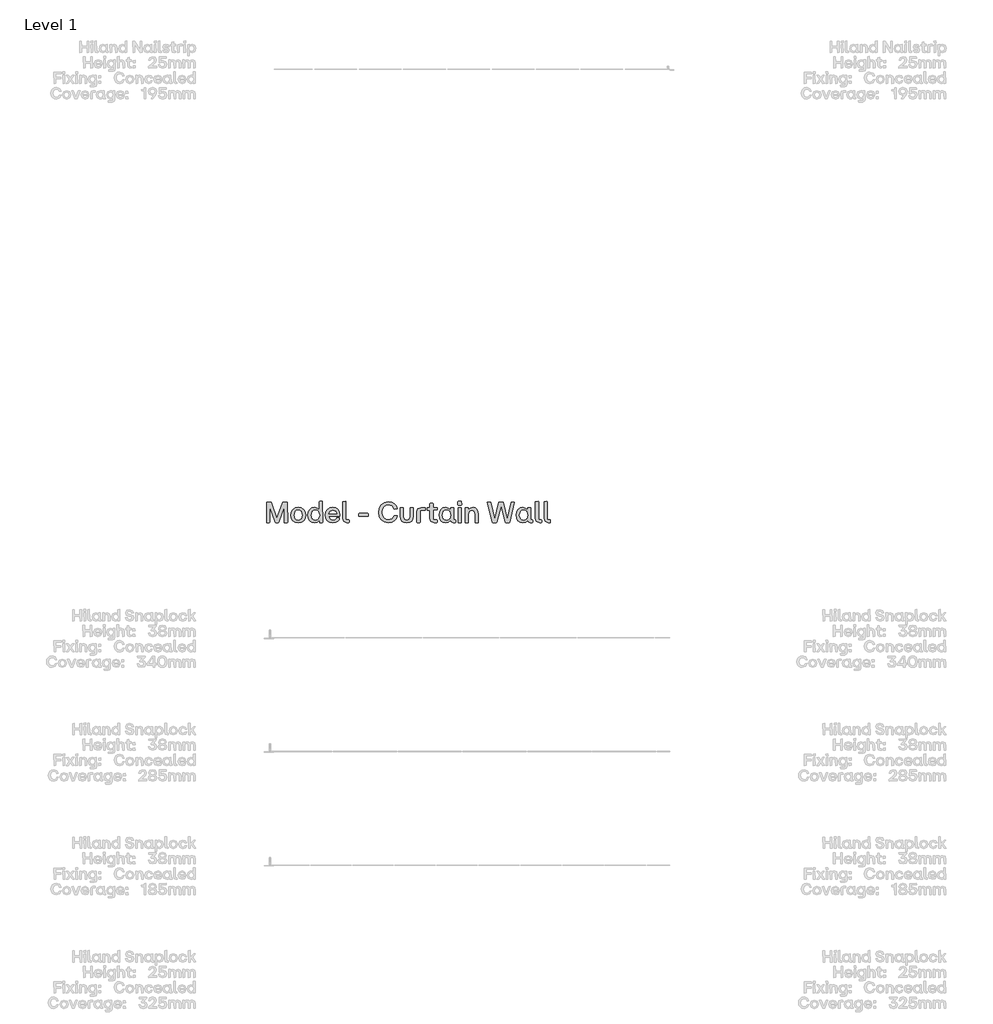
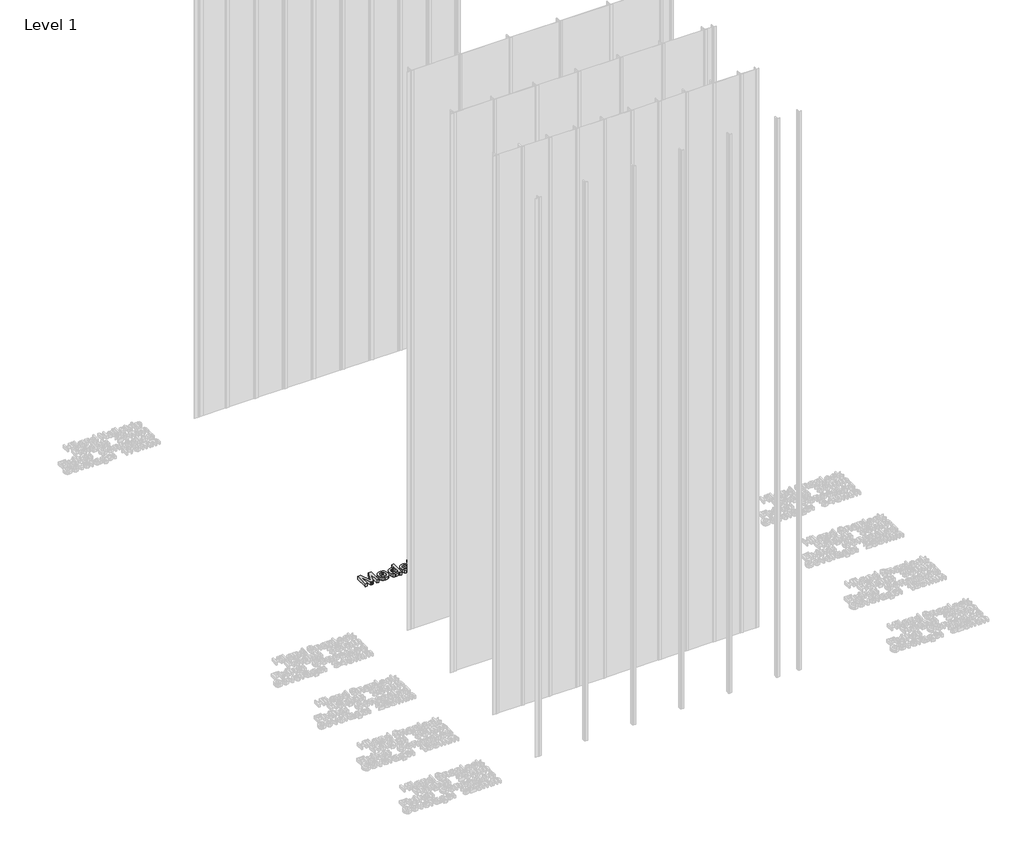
# One storey, part 19 of 64: 1 proxy.
"""IFC4 building model written with IfcOpenShell, lengths in millimetres."""

from ifc_helpers import new_model, si_unit, origin, origin_with_axes, place, context, project, spatial, polyline, outline, extrude, element, save

model = new_model("IFC4")

# Units and contexts
model_context = context("Model", 3, world=origin())
ifc_project = project(units=[si_unit("LENGTHUNIT", "METRE", prefix="MILLI")], contexts=[model_context])

# Site, building, storey
site = spatial("IfcSite", under=ifc_project)
building = spatial("IfcBuilding", under=site)
storey = spatial("IfcBuildingStorey", under=building, Name="Level 1", Elevation=0.0)

# Proxy
placement = place(None, origin())
element("IfcBuildingElementProxy", 1, Name="90mm", ObjectType="90mm", at=placement, inside=storey, context=model_context, shape_type="SweptSolid", body=[
    extrude(outline(polyline([(10.2926176, -6500.0), (8.9872124, -6498.7448027), (8.9872124, -6411.3077612), (28.5682898, -6410.002356), (30.0745265, -6411.0567217), (54.8521205, -6480.4691305), (79.8305461, -6411.0567217), (81.3367829, -6410.002356), (99.8634945, -6410.002356), (101.1688997, -6498.7448027), (99.8634945, -6500.0), (87.9391205, -6500.0), (86.6086114, -6498.7448027), (86.6086114, -6430.211032), (62.2075765, -6498.9958422), (60.7013398, -6500.0), (49.2037328, -6500.0), (47.6974961, -6498.9958422), (23.7985402, -6430.211032), (23.2964613, -6498.7448027), (21.9659522, -6500.0), (10.2926176, -6500.0)])), origin_with_axes(), (0.0, 0.0, 1.0), 20.0),
    extrude(outline(polyline([(148.1383814, -6500.7531184), (134.9117402, -6498.4466934), (124.452809, -6491.5274185), (117.6465018, -6480.8739317), (115.3777327, -6467.3648711), (117.6527778, -6453.7679467), (124.4779129, -6443.0014921), (134.9431201, -6435.9880774), (148.1383814, -6433.6502725), (161.4905423, -6435.9880774), (172.0247853, -6443.0014921), (178.8687484, -6453.7679467), (181.1500695, -6467.3648711), (178.8687484, -6480.8739317), (172.0247853, -6491.5274185), (161.4905423, -6498.4466934), (148.1383814, -6500.7531184)]), holes=[polyline([(129.8878131, -6467.3648711), (134.7454265, -6483.3937402), (140.522472, -6487.7524127), (148.1383814, -6489.2053035), (155.8358786, -6487.7461367), (161.7070638, -6483.3686362), (166.665093, -6467.3648711), (161.7321678, -6451.1728263), (155.8672585, -6446.748256), (148.1383814, -6445.2733992), (140.522472, -6446.748256), (134.7454265, -6451.1728263), (129.8878131, -6467.3648711)])]), origin_with_axes(), (0.0, 0.0, 1.0), 20.0),
    extrude(outline(polyline([(219.9607689, -6500.7531184), (208.011291, -6498.4843493), (198.7730391, -6491.6780421), (192.86106, -6481.0622112), (190.8904003, -6467.3648711), (192.86106, -6453.5325972), (198.7730391, -6442.8132125), (208.011291, -6435.9410075), (219.9607689, -6433.6502725), (231.872591, -6436.5372262), (240.8472515, -6444.444969), (241.4246422, -6408.7471587), (242.6798395, -6407.4166496), (254.353174, -6407.4166496), (255.6585792, -6498.7448027), (254.353174, -6500.0), (243.3074381, -6500.0), (242.0522408, -6498.7448027), (242.0522408, -6490.0839416), (232.4123258, -6497.8661646), (219.9607689, -6500.7531184)]), holes=[polyline([(205.4004807, -6467.3648711), (210.3585099, -6483.3686362), (216.2234191, -6487.7461367), (223.9020884, -6489.2053035), (231.4583759, -6487.7524127), (237.1569715, -6483.3937402), (241.9267211, -6467.3648711), (237.1193156, -6451.1728263), (231.411306, -6446.748256), (223.9020884, -6445.2733992), (216.2234191, -6446.748256), (210.3585099, -6451.1728263), (205.4004807, -6467.3648711)])]), origin_with_axes(), (0.0, 0.0, 1.0), 20.0),
    extrude(outline(polyline([(301.1469281, -6500.7531184), (287.5594177, -6498.4843493), (277.0220367, -6491.6780421), (270.2627994, -6481.0622112), (268.0097203, -6467.3648711), (270.2533854, -6453.5012173), (276.9843807, -6442.7881086), (287.5123478, -6435.9347315), (301.1469281, -6433.6502725), (313.6769348, -6435.9033516), (323.250952, -6442.6625889), (329.3229688, -6453.3129377), (331.3469743, -6467.2393514), (331.3469743, -6470.6785919), (330.0917771, -6472.009101), (282.6453204, -6472.009101), (288.1681884, -6484.6865934), (301.1469281, -6489.2053035), (311.5650654, -6486.9082925), (316.9624137, -6480.4691305), (318.3431307, -6479.4147648), (329.7152179, -6479.4147648), (327.6817983, -6488.7314665), (321.3305002, -6495.1925945), (312.3432877, -6499.3629874), (301.1469281, -6500.7531184)]), holes=[polyline([(282.7708401, -6461.5909637), (317.3389729, -6461.5909637), (312.5817752, -6449.6289337), (301.1469281, -6445.2733992), (288.3815719, -6449.4155502), (282.7708401, -6461.5909637)])]), origin_with_axes(), (0.0, 0.0, 1.0), 20.0),
    extrude(outline(polyline([(362.7771139, -6500.0), (348.9197361, -6495.2302504), (344.1499865, -6481.3477686), (344.1499865, -6408.7471587), (357.1287262, -6407.4166496), (358.3839235, -6408.7471587), (358.3839235, -6488.7032246), (370.3836093, -6488.7032246), (371.6388066, -6489.9584219), (371.6388066, -6498.7448027), (370.3836093, -6500.0), (362.7771139, -6500.0)])), origin_with_axes(), (0.0, 0.0, 1.0), 20.0),
    extrude(outline(polyline([(416.4242451, -6472.887739), (415.1690478, -6471.5572299), (415.1690478, -6461.5909637), (416.4242451, -6460.2604546), (455.034113, -6460.2604546), (456.2893102, -6461.5909637), (456.2893102, -6471.5572299), (455.034113, -6472.887739), (416.4242451, -6472.887739)])), origin_with_axes(), (0.0, 0.0, 1.0), 20.0),
    extrude(outline(polyline([(545.2827964, -6500.7531184), (527.2707156, -6497.6684711), (513.4007858, -6488.4145292), (504.5516451, -6473.8887589), (501.6019315, -6454.988626), (504.5767491, -6436.4054305), (513.5012016, -6421.8263143), (527.3962354, -6412.3935068), (545.2827964, -6409.2492376), (559.231176, -6411.3265891), (570.8009568, -6417.5586436), (579.1197767, -6427.2424905), (583.3152736, -6439.6752194), (570.1357023, -6441.1312482), (568.7047774, -6440.0015707), (560.8409665, -6426.3889563), (545.2827964, -6421.8514182), (533.3584224, -6424.0731174), (524.2958981, -6430.7382148), (518.5721986, -6441.244216), (516.6642987, -6454.988626), (518.5627846, -6468.9464196), (524.2582422, -6479.4398688), (533.3113525, -6486.0108265), (545.2827964, -6488.2011457), (561.1484899, -6483.7263674), (569.5834155, -6470.3020327), (571.0143404, -6469.1221472), (582.9387144, -6469.1221472), (579.7662033, -6482.8791093), (571.3030357, -6492.4688164), (559.5449753, -6498.6820429), (545.2827964, -6500.7531184)])), origin_with_axes(), (0.0, 0.0, 1.0), 20.0),
    extrude(outline(polyline([(625.364382, -6500.7531184), (612.8437893, -6498.9362203), (603.9005087, -6493.4855262), (598.5345404, -6484.401036), (596.7458843, -6471.6827497), (596.7458843, -6435.7339), (598.0010816, -6434.4787027), (609.6744162, -6434.4787027), (610.9798213, -6435.7339), (610.9798213, -6473.7663771), (614.6826533, -6485.2514321), (625.364382, -6489.2053035), (636.2845982, -6485.3455719), (639.9246703, -6473.7663771), (639.9246703, -6435.7339), (641.1798676, -6434.4787027), (652.90341, -6434.4787027), (654.1586073, -6435.7339), (654.1586073, -6471.6827497), (652.3589682, -6484.401036), (646.960051, -6493.4855262), (637.9618556, -6498.9362203), (625.364382, -6500.7531184)])), origin_with_axes(), (0.0, 0.0, 1.0), 20.0),
    extrude(outline(polyline([(670.9280428, -6500.0), (669.6728455, -6498.7448027), (669.6728455, -6453.0556222), (674.4425951, -6439.2107964), (688.2999729, -6434.4787027), (706.5756451, -6434.4787027), (707.8308424, -6435.7339), (707.8308424, -6445.2733992), (706.5756451, -6446.5285965), (683.9067825, -6446.5285965), (683.9067825, -6498.7448027), (682.6515852, -6500.0), (670.9280428, -6500.0)])), origin_with_axes(), (0.0, 0.0, 1.0), 20.0),
    extrude(outline(polyline([(746.0892551, -6500.0), (732.2067733, -6495.2302504), (727.4370237, -6481.3477686), (727.4370237, -6445.7754781), (716.265768, -6445.7754781), (714.9603629, -6435.7339), (716.265768, -6434.4787027), (727.4370237, -6434.4787027), (727.4370237, -6416.45407), (728.692221, -6415.1486648), (740.4408674, -6415.1486648), (741.6960646, -6416.45407), (741.6960646, -6434.4787027), (757.5115502, -6434.4787027), (758.8169553, -6435.7339), (758.8169553, -6444.444969), (741.6960646, -6445.7754781), (741.6960646, -6488.7032246), (757.5115502, -6488.7032246), (758.8169553, -6489.9584219), (758.8169553, -6498.7448027), (757.5115502, -6500.0), (746.0892551, -6500.0)])), origin_with_axes(), (0.0, 0.0, 1.0), 20.0),
    extrude(outline(polyline([(796.7490167, -6500.7531184), (784.7995388, -6498.4843493), (775.5612869, -6491.6780421), (769.6493078, -6481.0622112), (767.678648, -6467.3648711), (769.6493078, -6453.5325972), (775.5612869, -6442.8132125), (784.7995388, -6435.9410075), (796.7490167, -6433.6502725), (808.6608388, -6436.5372262), (817.6354992, -6444.444969), (818.21289, -6435.7339), (819.4680873, -6434.4787027), (831.1414218, -6434.4787027), (832.446827, -6435.7339), (832.446827, -6488.7032246), (839.5512435, -6488.7032246), (840.8064408, -6489.9584219), (840.8064408, -6498.7448027), (839.5512435, -6500.0), (830.0117443, -6500.0), (821.6333025, -6497.6465051), (818.8404886, -6490.5860205), (809.2005736, -6497.8661646), (796.7490167, -6500.7531184)]), holes=[polyline([(782.1887284, -6467.3648711), (787.1467576, -6483.3686362), (793.0116669, -6487.7461367), (800.6903361, -6489.2053035), (808.2466237, -6487.7524127), (813.9452193, -6483.3937402), (818.7149689, -6467.3648711), (813.9075634, -6451.1728263), (808.1995538, -6446.748256), (800.6903361, -6445.2733992), (793.0116669, -6446.748256), (787.1467576, -6451.1728263), (782.1887284, -6467.3648711)])]), origin_with_axes(), (0.0, 0.0, 1.0), 20.0),
    extrude(outline(polyline([(853.1575819, -6500.0), (851.8521767, -6498.7448027), (851.8521767, -6435.7339), (853.1575819, -6434.4787027), (864.8309165, -6434.4787027), (866.0861137, -6435.7339), (866.0861137, -6498.7448027), (864.8309165, -6500.0), (853.1575819, -6500.0)])), origin_with_axes(), (0.0, 0.0, 1.0), 20.0),
    extrude(outline(polyline([(850.8480189, -6421.8514182), (850.8480189, -6407.9940404), (852.1032162, -6406.6635313), (865.960594, -6406.6635313), (867.2911031, -6421.8514182), (865.960594, -6423.1066155), (852.1032162, -6423.1066155), (850.8480189, -6421.8514182)])), origin_with_axes(), (0.0, 0.0, 1.0), 20.0),
    extrude(outline(polyline([(883.6839794, -6500.0), (882.3785742, -6498.7448027), (882.3785742, -6435.7339), (883.6839794, -6434.4787027), (894.7297153, -6434.4787027), (895.9849126, -6435.7339), (895.9849126, -6444.444969), (905.2796484, -6436.3489466), (917.1977464, -6433.6502725), (927.1232188, -6435.5330684), (934.4065009, -6441.1814561), (938.8781412, -6450.4573639), (940.3686879, -6463.2227201), (940.3686879, -6498.7448027), (939.0381788, -6500.0), (927.3648443, -6500.0), (926.0594391, -6498.7448027), (926.0594391, -6463.2227201), (922.5448868, -6449.942733), (911.436391, -6445.7754781), (900.2274794, -6450.0054929), (896.6125112, -6463.2227201), (896.6125112, -6498.7448027), (895.357314, -6500.0), (883.6839794, -6500.0)])), origin_with_axes(), (0.0, 0.0, 1.0), 20.0),
    extrude(outline(polyline([(1003.7561499, -6500.0), (1002.3754329, -6498.8703225), (979.7065703, -6411.4332809), (993.6392599, -6410.002356), (995.0199769, -6411.1822414), (1011.8396203, -6485.6154393), (1030.4918517, -6411.1822414), (1031.9227765, -6410.002356), (1048.3658607, -6410.002356), (1049.8218896, -6411.1822414), (1067.7712105, -6485.6154393), (1085.1431406, -6411.1822414), (1086.5238576, -6410.002356), (1099.2766618, -6410.002356), (1077.8127886, -6498.8703225), (1076.4320716, -6500.0), (1059.9136756, -6500.0), (1058.5329586, -6498.8703225), (1040.4079101, -6426.4956481), (1021.630159, -6498.8703225), (1020.249442, -6500.0), (1003.7561499, -6500.0)])), origin_with_axes(), (0.0, 0.0, 1.0), 20.0),
    extrude(outline(polyline([(1135.7526944, -6500.7531184), (1123.8032164, -6498.4843493), (1114.5649646, -6491.6780421), (1108.6529854, -6481.0622112), (1106.6823257, -6467.3648711), (1108.6529854, -6453.5325972), (1114.5649646, -6442.8132125), (1123.8032164, -6435.9410075), (1135.7526944, -6433.6502725), (1147.6645165, -6436.5372262), (1156.6391769, -6444.444969), (1157.2165677, -6435.7339), (1158.4717649, -6434.4787027), (1170.1450995, -6434.4787027), (1171.4505047, -6435.7339), (1171.4505047, -6488.7032246), (1178.5549212, -6488.7032246), (1179.8101185, -6489.9584219), (1179.8101185, -6498.7448027), (1178.5549212, -6500.0), (1169.015422, -6500.0), (1160.6369802, -6497.6465051), (1157.8441663, -6490.5860205), (1148.2042513, -6497.8661646), (1135.7526944, -6500.7531184)]), holes=[polyline([(1121.1924061, -6467.3648711), (1126.1504353, -6483.3686362), (1132.0153445, -6487.7461367), (1139.6940138, -6489.2053035), (1147.2503014, -6487.7524127), (1152.948897, -6483.3937402), (1157.7186466, -6467.3648711), (1152.911241, -6451.1728263), (1147.2032315, -6446.748256), (1139.6940138, -6445.2733992), (1132.0153445, -6446.748256), (1126.1504353, -6451.1728263), (1121.1924061, -6467.3648711)])]), origin_with_axes(), (0.0, 0.0, 1.0), 20.0),
    extrude(outline(polyline([(1209.4829818, -6500.0), (1195.625604, -6495.2302504), (1190.8558544, -6481.3477686), (1190.8558544, -6408.7471587), (1203.8345941, -6407.4166496), (1205.0897914, -6408.7471587), (1205.0897914, -6488.7032246), (1217.0894773, -6488.7032246), (1218.3446745, -6489.9584219), (1218.3446745, -6498.7448027), (1217.0894773, -6500.0), (1209.4829818, -6500.0)])), origin_with_axes(), (0.0, 0.0, 1.0), 20.0),
    extrude(outline(polyline([(1248.0426418, -6500.0), (1234.185264, -6495.2302504), (1229.4155144, -6481.3477686), (1229.4155144, -6408.7471587), (1242.3942541, -6407.4166496), (1243.6494514, -6408.7471587), (1243.6494514, -6488.7032246), (1255.6491373, -6488.7032246), (1256.9043345, -6489.9584219), (1256.9043345, -6498.7448027), (1255.6491373, -6500.0), (1248.0426418, -6500.0)])), origin_with_axes(), (0.0, 0.0, 1.0), 20.0),
])

save(model, "model.ifc")
